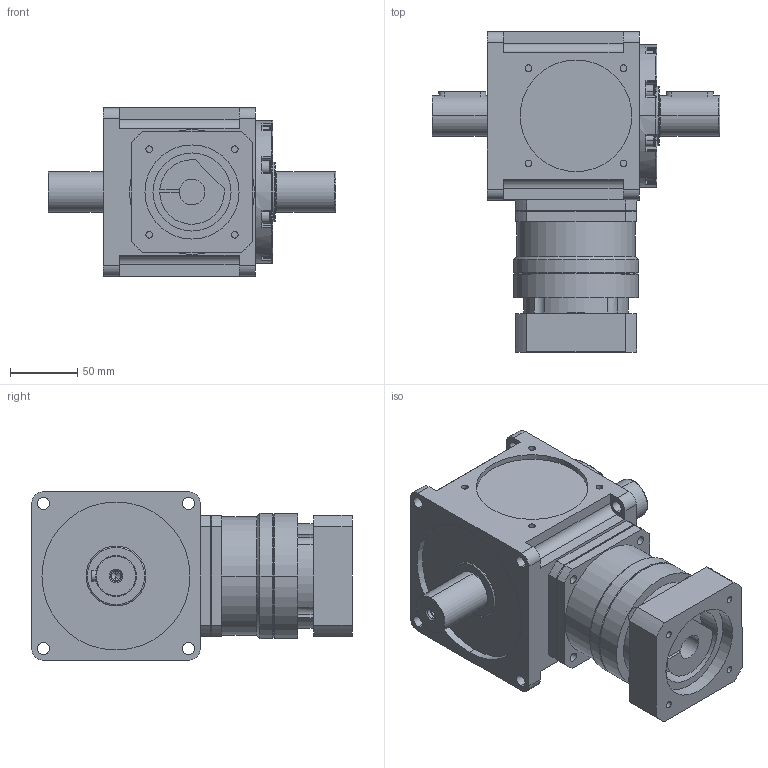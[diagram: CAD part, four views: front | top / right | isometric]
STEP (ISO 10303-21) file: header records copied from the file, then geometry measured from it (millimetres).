
FILE_DESCRIPTION (( 'STEP AP214' ), '1' );
FILE_NAME ('CCW125A-L1(6~20)-2P 19-70-90-M6.STEP', '2025-06-03T03:16:00', ( '微软用户' ), ( '微软中国' ), 'SwSTEP 2.0', 'SolidWorks 2024', '' );
FILE_SCHEMA (( 'AUTOMOTIVE_DESIGN' ));
Length unit declared in the file: millimetre
Products named in the file (3): CCW125A-002-2P箱体; VRB-090-L1-S2-P1 19-70-90-M6; CCW125A-L1(6~20)-2P 19-70-90-M6
Assembly tree (2 placements, depth 2):
  CCW125A-L1(6~20)-2P 19-70-90-M6
    CCW125A-002-2P箱体
    VRB-090-L1-S2-P1 19-70-90-M6
Bounding box: 214 x 238 x 125 mm (x, y, z)
Volume: 2508676.2 mm3; surface area: 192285 mm2
Topology: 4 solids, 4 shells, 525 faces, 1237 edges, 757 vertices
Faces by surface type: cylinder 213, plane 190, torus 55, cone 51, sphere 16
Entity records: 15196 total; most frequent: DIRECTION 2852, CARTESIAN_POINT 2637, ORIENTED_EDGE 2430, EDGE_CURVE 1215, AXIS2_PLACEMENT_3D 1134, VERTEX_POINT 757, EDGE_LOOP 608, CIRCLE 604
